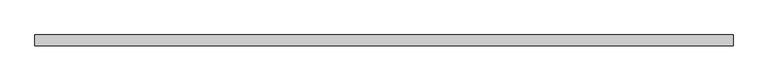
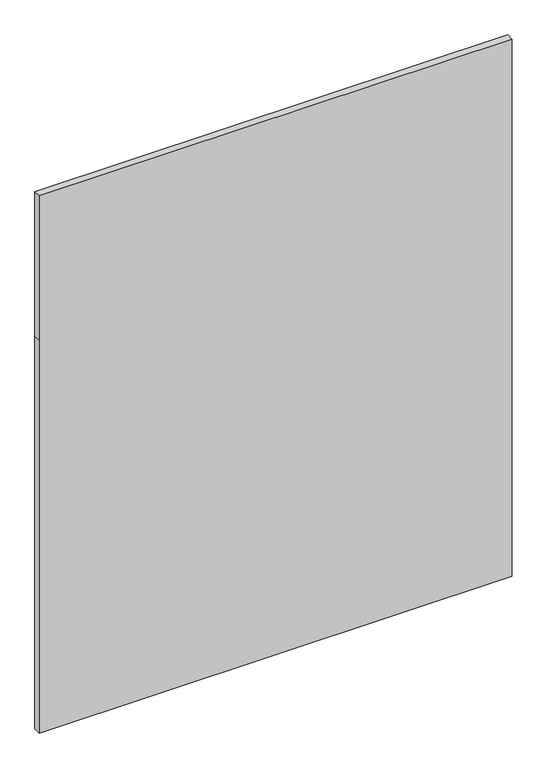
"""IFC4 building model written with IfcOpenShell, lengths in millimetres: plate geometry, Системная панель : ADSK_Cтеклопакет_25 мм."""

from ifc_helpers import new_model, si_unit, frame, origin, place, context, project, spatial, polyline, outline, extrude, source, transform, mapped, element, save


def plate_3bc05f15(model_context):
    return source(origin(), model_context, "Body", "SweptSolid", [
        extrude(outline(polyline([(0.0, -812.4684619), (0.0, 812.4684619), (1425.0, 812.4684619), (1950.0, 812.4684619), (1950.0, -812.4684619), (1425.0, -812.4684619), (0.0, -812.4684619)])), frame((0.0, -12.5, 0.0), z_axis=(0.0, 1.0, 0.0), x_axis=(0.0, 0.0, 1.0)), (0.0, 0.0, 1.0), 25.0),
    ])


if __name__ == "__main__":
    model = new_model("IFC4")
    model_context = context("Model", 3, world=origin())
    ifc_project = project(units=[si_unit("LENGTHUNIT", "METRE", prefix="MILLI")], contexts=[model_context])
    site = spatial("IfcSite", under=ifc_project)
    building = spatial("IfcBuilding", under=site)
    placement = place(None, origin())
    plate_shape = plate_3bc05f15(model_context)
    element("IfcPlate", 1, ObjectType="Системная панель : ADSK_Cтеклопакет_25 мм", at=placement, inside=building, context=model_context, shape_type="MappedRepresentation", body=[
        mapped(plate_shape, transform((0.0, 0.0, 0.0), x_axis=(1.0, 0.0, 0.0), y_axis=(0.0, 1.0, 0.0), z_axis=(0.0, 0.0, 1.0))),
    ])
    save(model, "model.ifc")
